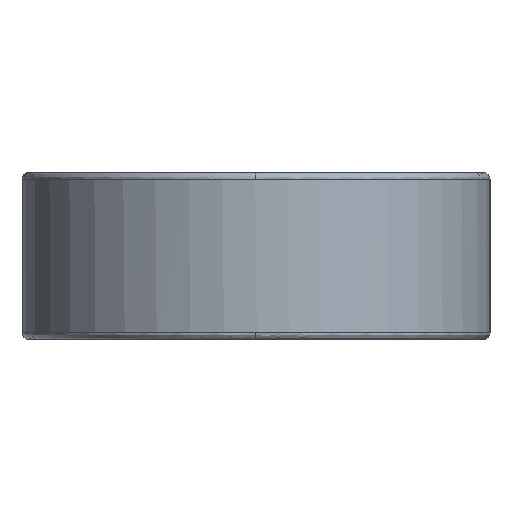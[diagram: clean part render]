
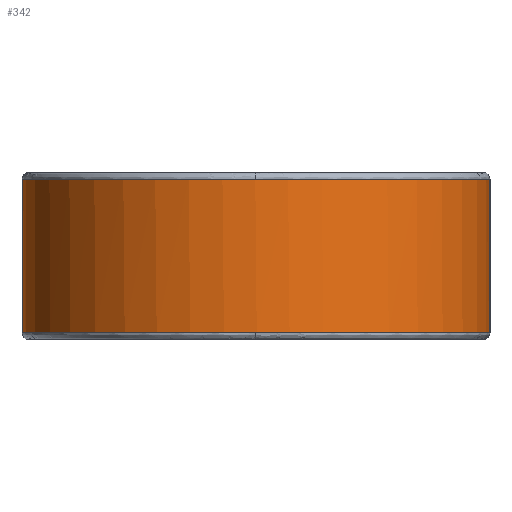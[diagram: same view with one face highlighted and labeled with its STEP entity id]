
A CAD part, left-side view. The second image highlights one B-rep face of the part: STEP entity #342.
In plain terms, the highlighted free-form (B-spline) face has degree [2, 1] with [9, 2] control points.
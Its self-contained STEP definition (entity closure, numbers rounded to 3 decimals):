
#342=ADVANCED_FACE('',(#368),#1149,.T.);
#368=FACE_OUTER_BOUND('',#399,.T.);
#399=EDGE_LOOP('',(#484,#485,#486,#487));
#484=ORIENTED_EDGE('',*,*,#951,.T.);
#485=ORIENTED_EDGE('',*,*,#952,.T.);
#486=ORIENTED_EDGE('',*,*,#953,.T.);
#487=ORIENTED_EDGE('',*,*,#954,.T.);
#575=PCURVE('',#1149,#666);
#576=PCURVE('',#1149,#667);
#577=PCURVE('',#1149,#668);
#578=PCURVE('',#1149,#669);
#666=DEFINITIONAL_REPRESENTATION('',(#769),#2857);
#667=DEFINITIONAL_REPRESENTATION('',(#771),#2857);
#668=DEFINITIONAL_REPRESENTATION('',(#772),#2857);
#669=DEFINITIONAL_REPRESENTATION('',(#774),#2857);
#769=B_SPLINE_CURVE_WITH_KNOTS('',1,(#2689,#2690),.UNSPECIFIED.,.F.,.F.,
(2,2),(-8.283,-5.142),.UNSPECIFIED.);
#770=B_SPLINE_CURVE_WITH_KNOTS('',1,(#2691,#2692),.UNSPECIFIED.,.F.,.F.,
(2,2),(-5.142,-4.142),.UNSPECIFIED.);
#771=B_SPLINE_CURVE_WITH_KNOTS('',1,(#2693,#2694),.UNSPECIFIED.,.F.,.F.,
(2,2),(-5.142,-4.142),.UNSPECIFIED.);
#772=B_SPLINE_CURVE_WITH_KNOTS('',1,(#2700,#2701),.UNSPECIFIED.,.F.,.F.,
(2,2),(-4.142,-1.),.UNSPECIFIED.);
#773=B_SPLINE_CURVE_WITH_KNOTS('',1,(#2702,#2703),.UNSPECIFIED.,.F.,.F.,
(2,2),(-1.,0.),.UNSPECIFIED.);
#774=B_SPLINE_CURVE_WITH_KNOTS('',1,(#2704,#2705),.UNSPECIFIED.,.F.,.F.,
(2,2),(-1.,0.),.UNSPECIFIED.);
#860=SURFACE_CURVE('',#1030,(#575),.PCURVE_S1.);
#861=SURFACE_CURVE('',#770,(#576),.PCURVE_S1.);
#862=SURFACE_CURVE('',#1031,(#577),.PCURVE_S1.);
#863=SURFACE_CURVE('',#773,(#578),.PCURVE_S1.);
#951=EDGE_CURVE('',#1121,#1124,#860,.T.);
#952=EDGE_CURVE('',#1124,#1123,#861,.T.);
#953=EDGE_CURVE('',#1123,#1122,#862,.T.);
#954=EDGE_CURVE('',#1122,#1121,#863,.T.);
#1030=(
BOUNDED_CURVE()
B_SPLINE_CURVE(2,(#2684,#2685,#2686,#2687,#2688),.UNSPECIFIED.,.F.,.F.)
B_SPLINE_CURVE_WITH_KNOTS((3,2,3),(-8.283,-6.712,-5.142),
 .UNSPECIFIED.)
CURVE()
GEOMETRIC_REPRESENTATION_ITEM()
RATIONAL_B_SPLINE_CURVE((1.,0.707,1.,0.707,1.))
REPRESENTATION_ITEM('')
);
#1031=(
BOUNDED_CURVE()
B_SPLINE_CURVE(2,(#2695,#2696,#2697,#2698,#2699),.UNSPECIFIED.,.F.,.F.)
B_SPLINE_CURVE_WITH_KNOTS((3,2,3),(-4.142,-2.571,-1.),
 .UNSPECIFIED.)
CURVE()
GEOMETRIC_REPRESENTATION_ITEM()
RATIONAL_B_SPLINE_CURVE((1.,0.707,1.,0.707,1.))
REPRESENTATION_ITEM('')
);
#1121=VERTEX_POINT('',#2680);
#1122=VERTEX_POINT('',#2681);
#1123=VERTEX_POINT('',#2682);
#1124=VERTEX_POINT('',#2683);
#1149=(
BOUNDED_SURFACE()
B_SPLINE_SURFACE(2,1,((#2662,#2663),(#2664,#2665),(#2666,#2667),(#2668,#2669),
(#2670,#2671),(#2672,#2673),(#2674,#2675),(#2676,#2677),(#2678,#2679)),
 .UNSPECIFIED.,.T.,.F.,.F.)
B_SPLINE_SURFACE_WITH_KNOTS((3,2,2,2,3),(2,2),(0.,1.571,3.142,
4.712,6.283),(0.,1.),.UNSPECIFIED.)
GEOMETRIC_REPRESENTATION_ITEM()
RATIONAL_B_SPLINE_SURFACE(((1.,1.),(0.707,0.707),
(1.,1.),(0.707,0.707),(1.,1.),(0.707,
0.707),(1.,1.),(0.707,0.707),(1.,1.)))
REPRESENTATION_ITEM('')
SURFACE()
);
#2662=CARTESIAN_POINT('',(4.8,7.,0.));
#2663=CARTESIAN_POINT('',(0.2,7.,0.));
#2664=CARTESIAN_POINT('',(4.8,7.,-7.));
#2665=CARTESIAN_POINT('',(0.2,7.,-7.));
#2666=CARTESIAN_POINT('',(4.8,0.,-7.));
#2667=CARTESIAN_POINT('',(0.2,0.,-7.));
#2668=CARTESIAN_POINT('',(4.8,-7.,-7.));
#2669=CARTESIAN_POINT('',(0.2,-7.,-7.));
#2670=CARTESIAN_POINT('',(4.8,-7.,0.));
#2671=CARTESIAN_POINT('',(0.2,-7.,0.));
#2672=CARTESIAN_POINT('',(4.8,-7.,7.));
#2673=CARTESIAN_POINT('',(0.2,-7.,7.));
#2674=CARTESIAN_POINT('',(4.8,0.,7.));
#2675=CARTESIAN_POINT('',(0.2,0.,7.));
#2676=CARTESIAN_POINT('',(4.8,7.,7.));
#2677=CARTESIAN_POINT('',(0.2,7.,7.));
#2678=CARTESIAN_POINT('',(4.8,7.,0.));
#2679=CARTESIAN_POINT('',(0.2,7.,0.));
#2680=CARTESIAN_POINT('',(0.2,7.,0.));
#2681=CARTESIAN_POINT('',(4.8,7.,0.));
#2682=CARTESIAN_POINT('',(4.8,-7.,0.));
#2683=CARTESIAN_POINT('',(0.2,-7.,0.));
#2684=CARTESIAN_POINT('',(0.2,7.,0.));
#2685=CARTESIAN_POINT('',(0.2,7.,7.));
#2686=CARTESIAN_POINT('',(0.2,0.,7.));
#2687=CARTESIAN_POINT('',(0.2,-7.,7.));
#2688=CARTESIAN_POINT('',(0.2,-7.,0.));
#2689=CARTESIAN_POINT('',(6.283,1.));
#2690=CARTESIAN_POINT('',(3.142,1.));
#2691=CARTESIAN_POINT('',(0.2,-7.,0.));
#2692=CARTESIAN_POINT('',(4.8,-7.,0.));
#2693=CARTESIAN_POINT('',(3.142,1.));
#2694=CARTESIAN_POINT('',(3.142,0.));
#2695=CARTESIAN_POINT('',(4.8,-7.,0.));
#2696=CARTESIAN_POINT('',(4.8,-7.,7.));
#2697=CARTESIAN_POINT('',(4.8,0.,7.));
#2698=CARTESIAN_POINT('',(4.8,7.,7.));
#2699=CARTESIAN_POINT('',(4.8,7.,0.));
#2700=CARTESIAN_POINT('',(3.142,0.));
#2701=CARTESIAN_POINT('',(6.283,0.));
#2702=CARTESIAN_POINT('',(4.8,7.,0.));
#2703=CARTESIAN_POINT('',(0.2,7.,0.));
#2704=CARTESIAN_POINT('',(6.283,0.));
#2705=CARTESIAN_POINT('',(6.283,1.));
#2857=(
GEOMETRIC_REPRESENTATION_CONTEXT(2)
PARAMETRIC_REPRESENTATION_CONTEXT()
REPRESENTATION_CONTEXT('pspace','')
);
